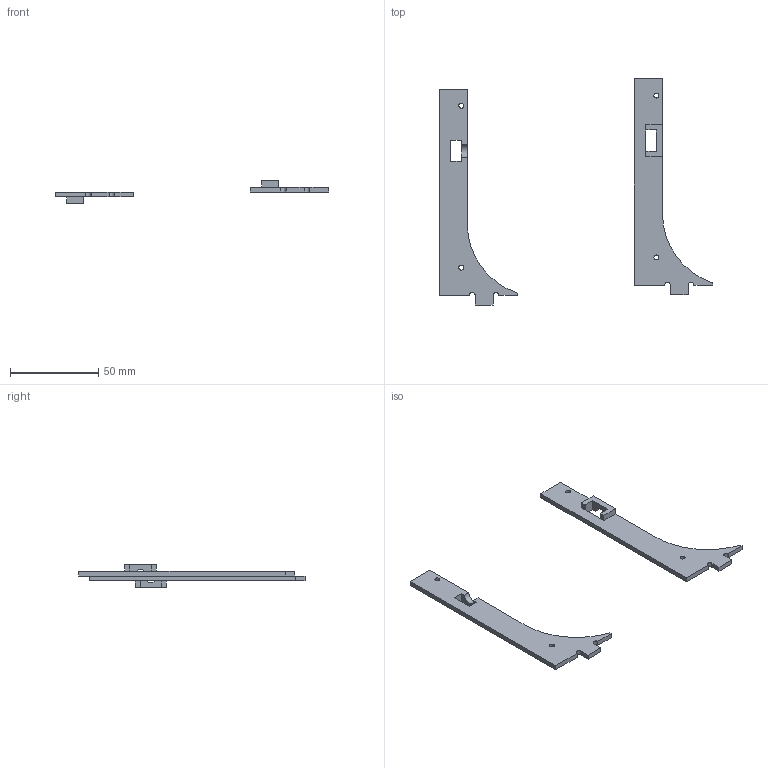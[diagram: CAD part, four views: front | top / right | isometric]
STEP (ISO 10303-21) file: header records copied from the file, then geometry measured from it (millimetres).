
FILE_DESCRIPTION(/* description */ ('Alibre Inc.'),/* implementation_level */ '2;1');
FILE_NAME(/* name */ 'export0',/* time_stamp */ '2014-01-01T19:55:48-05:00',/* author */ (''),/* organization */ (''),/* preprocessor_version */ 'ST-DEVELOPER v14',/* originating_system */ 'Alibre',/* authorisation */ '');
FILE_SCHEMA (('CONFIG_CONTROL_DESIGN'));
Length unit declared in the file: centimetre
Products named in the file (3): ID_1; ID_2
Bounding box: 154.81 x 127.97 x 12.7 mm (x, y, z)
Volume: 12542.8 mm3; surface area: 11107 mm2
Topology: 2 solids, 2 shells, 52 faces, 157 edges, 105 vertices
Faces by surface type: plane 40, cylinder 12
Full cylindrical faces by diameter (mm): 2.794 x4
Entity records: 2017 total; most frequent: CARTESIAN_POINT 313, ORIENTED_EDGE 308, DIRECTION 254, EDGE_CURVE 154, VECTOR 124, LINE 124, VERTEX_POINT 104, AXIS2_PLACEMENT_3D 85
